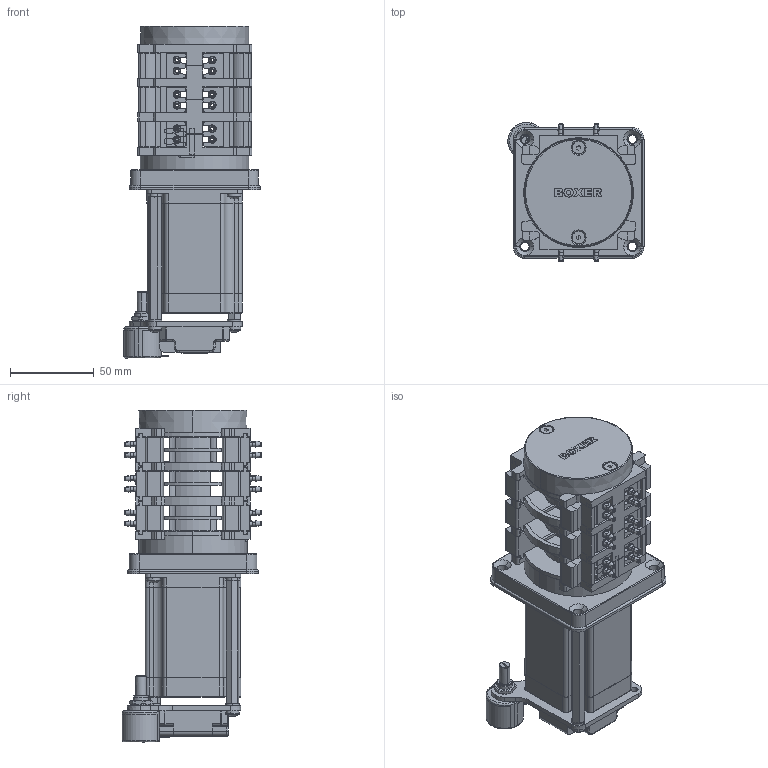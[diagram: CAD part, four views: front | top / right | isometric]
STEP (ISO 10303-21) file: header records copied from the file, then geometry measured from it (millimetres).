
FILE_DESCRIPTION (( 'STEP AP203' ), '1' );
FILE_NAME ('6343.151-1mm.STEP', '2018-10-22T17:55:15', ( '' ), ( '' ), 'SwSTEP 2.0', 'SolidWorks 2015', '' );
FILE_SCHEMA (( 'CONFIG_CONTROL_DESIGN' ));
Length unit declared in the file: millimetre
Products named in the file (1): 6343.151-1mm
Bounding box: 81.08 x 83.08 x 197.75 mm (x, y, z)
Surface area: 117045.8 mm2 (no closed solid volume)
Topology: 0 solids, 126 shells, 1616 faces, 5764 edges, 4132 vertices
Faces by surface type: plane 753, cylinder 577, cone 191, torus 49, bspline 26, sphere 20
Entity records: 63394 total; most frequent: CARTESIAN_POINT 13392, DIRECTION 10999, ORIENTED_EDGE 9042, EDGE_CURVE 5760, VERTEX_POINT 4132, AXIS2_PLACEMENT_3D 3779, VECTOR 3441, LINE 3441
